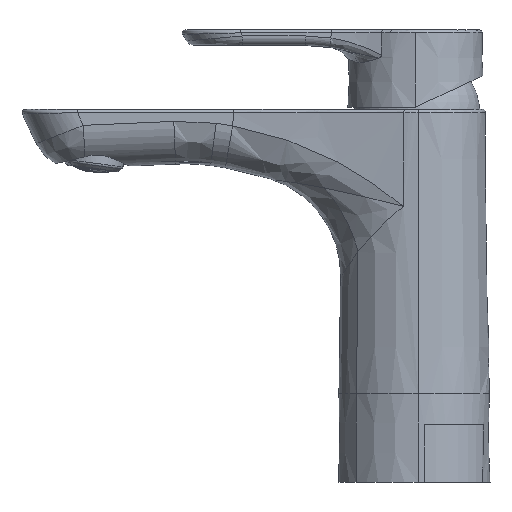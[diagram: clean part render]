
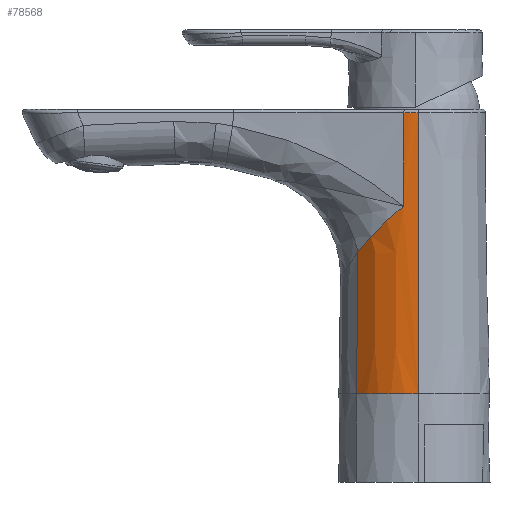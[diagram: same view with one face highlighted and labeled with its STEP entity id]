
A CAD part, left-side view. The second image highlights one B-rep face of the part: STEP entity #78568.
In plain terms, the highlighted conical face has half-angle 0.8 degrees and reference radius 26.856 mm.
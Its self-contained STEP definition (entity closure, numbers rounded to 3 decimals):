
#305 = CARTESIAN_POINT ( 'NONE',  ( -80.216, -47.308, 23.401 ) ) ;
#785 = CARTESIAN_POINT ( 'NONE',  ( -76.927, -40.129, 16.377 ) ) ;
#1546 = DIRECTION ( 'NONE',  ( 0., 0., 1. ) ) ;
#2246 = CARTESIAN_POINT ( 'NONE',  ( -76.646, -39.707, 15.923 ) ) ;
#4663 = CARTESIAN_POINT ( 'NONE',  ( -82.099, -54.761, -33.687 ) ) ;
#5072 = VERTEX_POINT ( 'NONE', #50770 ) ;
#6401 = AXIS2_PLACEMENT_3D ( 'NONE', #91822, #1546, #68571 ) ;
#11812 = FACE_OUTER_BOUND ( 'NONE', #18153, .T. ) ;
#14243 = CARTESIAN_POINT ( 'NONE',  ( -80.71, -49.313, 25.129 ) ) ;
#14434 = CARTESIAN_POINT ( 'NONE',  ( -73.648, -35.203, -33.687 ) ) ;
#15642 = VERTEX_POINT ( 'NONE', #80683 ) ;
#15699 = CARTESIAN_POINT ( 'NONE',  ( -78.578, -43.034, 19.383 ) ) ;
#16194 = CARTESIAN_POINT ( 'NONE',  ( -75.982, -38.787, 14.914 ) ) ;
#17166 = CARTESIAN_POINT ( 'NONE',  ( -76.306, -39.226, 15.398 ) ) ;
#18153 = EDGE_LOOP ( 'NONE', ( #30501, #24042, #61883, #29407, #55542, #92952 ) ) ;
#18633 = CARTESIAN_POINT ( 'NONE',  ( -80.568, -50.107, 45.618 ) ) ;
#21198 = CARTESIAN_POINT ( 'NONE',  ( -78.294, -42.469, 18.817 ) ) ;
#21211 = CARTESIAN_POINT ( 'NONE',  ( -55.244, -54.761, -33.687 ) ) ;
#21692 = CARTESIAN_POINT ( 'NONE',  ( -78.141, -42.18, 18.523 ) ) ;
#21748 = B_SPLINE_CURVE_WITH_KNOTS ( 'NONE', 3,
 ( #37087, #14243, #36596, #90580, #305, #46002, #96564, #22673, #75223, #30605, #23145, #52970, #83159, #83645, #28651, #90089, #44541, #97058, #15699, #89112, #59409, #21198, #29138, #89602, #51500, #21692, #51989, #82196, #67322, #97539, #29642, #59899, #86090, #785, #2246, #17166, #78648, #69262, #31087, #16194, #85108, #61368, #38539, #54915, #84144 ),
 .UNSPECIFIED., .F., .F.,
 ( 4, 2, 2, 1, 1, 1, 1, 1, 2, 2, 2, 2, 2, 1, 1, 1, 1, 2, 2, 1, 2, 2, 1, 1, 1, 1, 1, 2, 2, 4 ),
 ( 0., 0.125, 0.188, 0.219, 0.234, 0.242, 0.246, 0.248, 0.249, 0.25, 0.375, 0.438, 0.469, 0.484, 0.492, 0.496, 0.498, 0.499, 0.5, 0.563, 0.594, 0.625, 0.688, 0.719, 0.734, 0.742, 0.746, 0.748, 0.75, 1. ),
 .UNSPECIFIED. ) ;
#22673 = CARTESIAN_POINT ( 'NONE',  ( -79.875, -46.213, 22.416 ) ) ;
#23145 = CARTESIAN_POINT ( 'NONE',  ( -79.782, -45.941, 22.166 ) ) ;
#23366 = EDGE_CURVE ( 'NONE', #74538, #44156, #68960, .T. ) ;
#24042 = ORIENTED_EDGE ( 'NONE', *, *, #47278, .T. ) ;
#28651 = CARTESIAN_POINT ( 'NONE',  ( -79.588, -45.383, 21.652 ) ) ;
#29138 = CARTESIAN_POINT ( 'NONE',  ( -78.213, -42.314, 18.659 ) ) ;
#29407 = ORIENTED_EDGE ( 'NONE', *, *, #83181, .T. ) ;
#29642 = CARTESIAN_POINT ( 'NONE',  ( -77.465, -40.986, 17.289 ) ) ;
#30501 = ORIENTED_EDGE ( 'NONE', *, *, #23366, .T. ) ;
#30605 = CARTESIAN_POINT ( 'NONE',  ( -79.796, -45.98, 22.202 ) ) ;
#31087 = CARTESIAN_POINT ( 'NONE',  ( -76.001, -38.812, 14.942 ) ) ;
#34969 = CIRCLE ( 'NONE', #6401, 26.856 ) ;
#36596 = CARTESIAN_POINT ( 'NONE',  ( -80.571, -48.662, 24.581 ) ) ;
#37087 = CARTESIAN_POINT ( 'NONE',  ( -80.82, -49.939, 25.641 ) ) ;
#38539 = CARTESIAN_POINT ( 'NONE',  ( -75.03, -37.523, 13.513 ) ) ;
#39330 = AXIS2_PLACEMENT_3D ( 'NONE', #77847, #87241, #93177 ) ;
#42254 = AXIS2_PLACEMENT_3D ( 'NONE', #21211, #56982, #72322 ) ;
#44156 = VERTEX_POINT ( 'NONE', #77588 ) ;
#44541 = CARTESIAN_POINT ( 'NONE',  ( -78.967, -43.866, 20.203 ) ) ;
#46002 = CARTESIAN_POINT ( 'NONE',  ( -80.059, -46.786, 22.935 ) ) ;
#47278 = EDGE_CURVE ( 'NONE', #44156, #94397, #34969, .T. ) ;
#49708 = CARTESIAN_POINT ( 'NONE',  ( -80.445, -50.189, 55.327 ) ) ;
#49898 = CARTESIAN_POINT ( 'NONE',  ( -80.82, -49.939, 25.641 ) ) ;
#50202 = CONICAL_SURFACE ( 'NONE', #42254, 26.856, 0.014 ) ;
#50770 = CARTESIAN_POINT ( 'NONE',  ( -80.82, -49.939, 25.641 ) ) ;
#51500 = CARTESIAN_POINT ( 'NONE',  ( -78.15, -42.196, 18.54 ) ) ;
#51989 = CARTESIAN_POINT ( 'NONE',  ( -78.135, -42.168, 18.511 ) ) ;
#52346 = EDGE_CURVE ( 'NONE', #82739, #5072, #59719, .T. ) ;
#52970 = CARTESIAN_POINT ( 'NONE',  ( -79.776, -45.924, 22.151 ) ) ;
#53679 = CIRCLE ( 'NONE', #39330, 25.613 ) ;
#54915 = CARTESIAN_POINT ( 'NONE',  ( -74.093, -36.505, 12.334 ) ) ;
#55542 = ORIENTED_EDGE ( 'NONE', *, *, #52346, .T. ) ;
#56982 = DIRECTION ( 'NONE',  ( 0., 0., -1. ) ) ;
#57474 = VECTOR ( 'NONE', #57776, 1000. ) ;
#57776 = DIRECTION ( 'NONE',  ( -0.014, 0., -1. ) ) ;
#59409 = CARTESIAN_POINT ( 'NONE',  ( -78.361, -42.601, 18.949 ) ) ;
#59719 = B_SPLINE_CURVE_WITH_KNOTS ( 'NONE', 3,
 ( #64771, #18633, #73172, #49898 ),
 .UNSPECIFIED., .F., .F.,
 ( 4, 4 ),
 ( 0., 1. ),
 .UNSPECIFIED. ) ;
#59899 = CARTESIAN_POINT ( 'NONE',  ( -77.289, -40.699, 16.986 ) ) ;
#61368 = CARTESIAN_POINT ( 'NONE',  ( -75.964, -38.763, 14.887 ) ) ;
#61883 = ORIENTED_EDGE ( 'NONE', *, *, #97095, .F. ) ;
#63432 = VECTOR ( 'NONE', #74947, 1000. ) ;
#64771 = CARTESIAN_POINT ( 'NONE',  ( -80.445, -50.189, 55.327 ) ) ;
#65267 = CARTESIAN_POINT ( 'NONE',  ( -82.099, -54.761, -33.687 ) ) ;
#67322 = CARTESIAN_POINT ( 'NONE',  ( -77.971, -41.86, 18.197 ) ) ;
#68571 = DIRECTION ( 'NONE',  ( 1., 0., 0. ) ) ;
#68960 = LINE ( 'NONE', #14434, #63432 ) ;
#69262 = CARTESIAN_POINT ( 'NONE',  ( -76.045, -38.871, 15.007 ) ) ;
#72322 = DIRECTION ( 'NONE',  ( -1., 0., 0. ) ) ;
#73172 = CARTESIAN_POINT ( 'NONE',  ( -80.693, -50.024, 35.723 ) ) ;
#74538 = VERTEX_POINT ( 'NONE', #84609 ) ;
#74947 = DIRECTION ( 'NONE',  ( -0.01, 0.01, -1. ) ) ;
#75223 = CARTESIAN_POINT ( 'NONE',  ( -79.822, -46.058, 22.274 ) ) ;
#77588 = CARTESIAN_POINT ( 'NONE',  ( -73.648, -35.203, -33.687 ) ) ;
#77847 = CARTESIAN_POINT ( 'NONE',  ( -55.244, -54.761, 55.327 ) ) ;
#78568 = ADVANCED_FACE ( 'NONE', ( #11812 ), #50202, .T. ) ;
#78648 = CARTESIAN_POINT ( 'NONE',  ( -76.132, -38.989, 15.137 ) ) ;
#80683 = CARTESIAN_POINT ( 'NONE',  ( -80.856, -54.761, 55.327 ) ) ;
#82196 = CARTESIAN_POINT ( 'NONE',  ( -78.132, -42.162, 18.504 ) ) ;
#82739 = VERTEX_POINT ( 'NONE', #49708 ) ;
#83159 = CARTESIAN_POINT ( 'NONE',  ( -79.773, -45.913, 22.141 ) ) ;
#83181 = EDGE_CURVE ( 'NONE', #15642, #82739, #53679, .T. ) ;
#83645 = CARTESIAN_POINT ( 'NONE',  ( -79.77, -45.906, 22.134 ) ) ;
#84144 = CARTESIAN_POINT ( 'NONE',  ( -73.217, -35.661, 11.338 ) ) ;
#84609 = CARTESIAN_POINT ( 'NONE',  ( -73.217, -35.661, 11.338 ) ) ;
#85108 = CARTESIAN_POINT ( 'NONE',  ( -75.969, -38.77, 14.895 ) ) ;
#86090 = CARTESIAN_POINT ( 'NONE',  ( -77.201, -40.557, 16.835 ) ) ;
#87241 = DIRECTION ( 'NONE',  ( 0., 0., -1. ) ) ;
#89112 = CARTESIAN_POINT ( 'NONE',  ( -78.494, -42.863, 19.212 ) ) ;
#89602 = CARTESIAN_POINT ( 'NONE',  ( -78.171, -42.236, 18.58 ) ) ;
#90089 = CARTESIAN_POINT ( 'NONE',  ( -79.37, -44.806, 21.111 ) ) ;
#90580 = CARTESIAN_POINT ( 'NONE',  ( -80.311, -47.65, 23.703 ) ) ;
#91822 = CARTESIAN_POINT ( 'NONE',  ( -55.244, -54.761, -33.687 ) ) ;
#92952 = ORIENTED_EDGE ( 'NONE', *, *, #94179, .T. ) ;
#93177 = DIRECTION ( 'NONE',  ( 1., 0., 0. ) ) ;
#94179 = EDGE_CURVE ( 'NONE', #5072, #74538, #21748, .T. ) ;
#94397 = VERTEX_POINT ( 'NONE', #65267 ) ;
#96564 = CARTESIAN_POINT ( 'NONE',  ( -79.977, -46.523, 22.698 ) ) ;
#97058 = CARTESIAN_POINT ( 'NONE',  ( -78.82, -43.54, 19.885 ) ) ;
#97095 = EDGE_CURVE ( 'NONE', #15642, #94397, #97381, .T. ) ;
#97381 = LINE ( 'NONE', #4663, #57474 ) ;
#97539 = CARTESIAN_POINT ( 'NONE',  ( -77.724, -41.42, 17.743 ) ) ;
